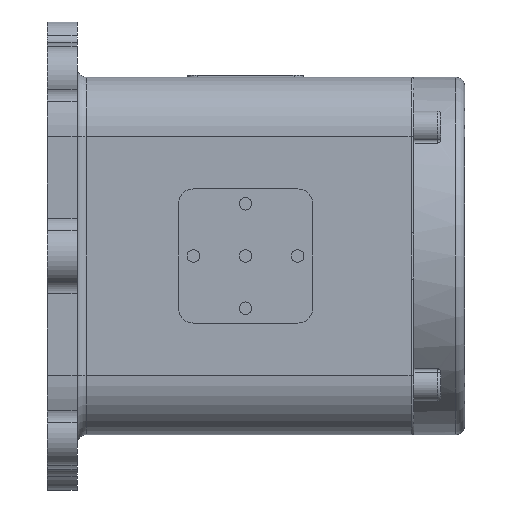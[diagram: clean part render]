
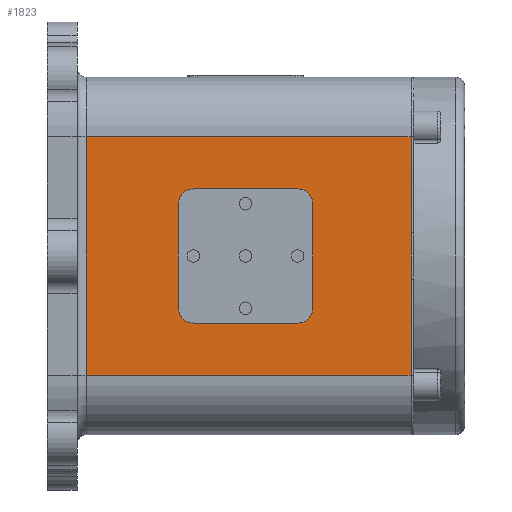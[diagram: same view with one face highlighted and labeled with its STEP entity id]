
A CAD part, left-side view. The second image highlights one B-rep face of the part: STEP entity #1823.
In plain terms, the highlighted planar face has unit normal (-1, 0, 0).
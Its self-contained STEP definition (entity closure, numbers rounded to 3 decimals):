
#52 = VERTEX_POINT ( 'NONE', #8034 ) ;
#121 = DIRECTION ( 'NONE',  ( 0., 0., -1. ) ) ;
#225 = VERTEX_POINT ( 'NONE', #2832 ) ;
#234 = CARTESIAN_POINT ( 'NONE',  ( -85., -27.5, 77.5 ) ) ;
#253 = EDGE_CURVE ( 'NONE', #11176, #9375, #7548, .T. ) ;
#337 = EDGE_CURVE ( 'NONE', #8012, #1720, #4086, .T. ) ;
#345 = ORIENTED_EDGE ( 'NONE', *, *, #337, .T. ) ;
#457 = CIRCLE ( 'NONE', #7240, 5. ) ;
#635 = CARTESIAN_POINT ( 'NONE',  ( -85., -60.5, 67.73 ) ) ;
#676 = CARTESIAN_POINT ( 'NONE',  ( -85., -60.634, 58.713 ) ) ;
#928 = EDGE_CURVE ( 'NONE', #9595, #3517, #974, .T. ) ;
#974 = CIRCLE ( 'NONE', #7477, 5. ) ;
#1048 = CARTESIAN_POINT ( 'NONE',  ( -85., 17.5, 37.5 ) ) ;
#1310 = EDGE_CURVE ( 'NONE', #52, #3517, #11005, .T. ) ;
#1338 = VERTEX_POINT ( 'NONE', #5458 ) ;
#1377 = VECTOR ( 'NONE', #10590, 1000. ) ;
#1484 = ORIENTED_EDGE ( 'NONE', *, *, #6611, .T. ) ;
#1534 = VERTEX_POINT ( 'NONE', #2017 ) ;
#1560 = ORIENTED_EDGE ( 'NONE', *, *, #7435, .F. ) ;
#1571 = ORIENTED_EDGE ( 'NONE', *, *, #1887, .T. ) ;
#1591 = CARTESIAN_POINT ( 'NONE',  ( -85., -60.607, 57.424 ) ) ;
#1720 = VERTEX_POINT ( 'NONE', #1765 ) ;
#1765 = CARTESIAN_POINT ( 'NONE',  ( -85., -60.5, 100. ) ) ;
#1823 = ADVANCED_FACE ( 'NONE', ( #6415, #7390 ), #8304, .F. ) ;
#1879 = CARTESIAN_POINT ( 'NONE',  ( -85., -27.5, 37.5 ) ) ;
#1881 = DIRECTION ( 'NONE',  ( 0., 1., 0. ) ) ;
#1887 = EDGE_CURVE ( 'NONE', #225, #2304, #3256, .T. ) ;
#1889 = EDGE_CURVE ( 'NONE', #9595, #2983, #5744, .T. ) ;
#2015 = VECTOR ( 'NONE', #10468, 1000. ) ;
#2017 = CARTESIAN_POINT ( 'NONE',  ( -85., -60.5, 52.27 ) ) ;
#2067 = DIRECTION ( 'NONE',  ( 1., 0., 0. ) ) ;
#2181 = CARTESIAN_POINT ( 'NONE',  ( -85., -22.5, 77.5 ) ) ;
#2269 = VECTOR ( 'NONE', #2756, 1000. ) ;
#2301 = DIRECTION ( 'NONE',  ( 1., 0., 0. ) ) ;
#2304 = VERTEX_POINT ( 'NONE', #11943 ) ;
#2306 = CARTESIAN_POINT ( 'NONE',  ( -85., -60.5, 66.441 ) ) ;
#2511 = CARTESIAN_POINT ( 'NONE',  ( -85., -60.5, 52.27 ) ) ;
#2567 = LINE ( 'NONE', #9697, #10652 ) ;
#2674 = LINE ( 'NONE', #2732, #3743 ) ;
#2706 = DIRECTION ( 'NONE',  ( 0., -1., 0. ) ) ;
#2732 = CARTESIAN_POINT ( 'NONE',  ( -85., -60.5, 120. ) ) ;
#2756 = DIRECTION ( 'NONE',  ( 0., -1., 0. ) ) ;
#2800 = DIRECTION ( 'NONE',  ( 1., 0., 0. ) ) ;
#2832 = CARTESIAN_POINT ( 'NONE',  ( -85., 17.5, 77.5 ) ) ;
#2983 = VERTEX_POINT ( 'NONE', #234 ) ;
#3018 = EDGE_CURVE ( 'NONE', #1338, #2304, #11290, .T. ) ;
#3037 = EDGE_CURVE ( 'NONE', #1338, #2983, #6479, .T. ) ;
#3211 = ORIENTED_EDGE ( 'NONE', *, *, #928, .T. ) ;
#3256 = CIRCLE ( 'NONE', #9994, 5. ) ;
#3314 = ORIENTED_EDGE ( 'NONE', *, *, #1310, .F. ) ;
#3392 = VECTOR ( 'NONE', #1881, 1000. ) ;
#3491 = CARTESIAN_POINT ( 'NONE',  ( -85., -60.607, 62.578 ) ) ;
#3517 = VERTEX_POINT ( 'NONE', #5828 ) ;
#3689 = EDGE_CURVE ( 'NONE', #1534, #8012, #6984, .T. ) ;
#3743 = VECTOR ( 'NONE', #7448, 1000. ) ;
#3917 = CARTESIAN_POINT ( 'NONE',  ( -85., -60.5, 120. ) ) ;
#3971 = DIRECTION ( 'NONE',  ( 0., 0., -1. ) ) ;
#3981 = EDGE_CURVE ( 'NONE', #9375, #1534, #2674, .T. ) ;
#4066 = DIRECTION ( 'NONE',  ( 0., 1., 0. ) ) ;
#4086 = LINE ( 'NONE', #3917, #1377 ) ;
#4378 = CARTESIAN_POINT ( 'NONE',  ( -85., -60.634, 61.29 ) ) ;
#4780 = EDGE_CURVE ( 'NONE', #52, #6807, #457, .T. ) ;
#4786 = VECTOR ( 'NONE', #6593, 1000. ) ;
#4853 = CARTESIAN_POINT ( 'NONE',  ( -85., -27.5, 42.5 ) ) ;
#5025 = ORIENTED_EDGE ( 'NONE', *, *, #4780, .T. ) ;
#5133 = LINE ( 'NONE', #9741, #5879 ) ;
#5200 = VERTEX_POINT ( 'NONE', #10223 ) ;
#5458 = CARTESIAN_POINT ( 'NONE',  ( -85., -22.5, 82.5 ) ) ;
#5646 = ORIENTED_EDGE ( 'NONE', *, *, #3037, .T. ) ;
#5742 = DIRECTION ( 'NONE',  ( 0., 0., -1. ) ) ;
#5744 = LINE ( 'NONE', #1879, #4786 ) ;
#5792 = ORIENTED_EDGE ( 'NONE', *, *, #253, .T. ) ;
#5828 = CARTESIAN_POINT ( 'NONE',  ( -85., -22.5, 37.5 ) ) ;
#5830 = EDGE_LOOP ( 'NONE', ( #7779, #1484, #5792, #8643, #9541, #345 ) ) ;
#5879 = VECTOR ( 'NONE', #4066, 1000. ) ;
#5900 = AXIS2_PLACEMENT_3D ( 'NONE', #2181, #2301, #9562 ) ;
#5987 = CARTESIAN_POINT ( 'NONE',  ( -85., -60.5, 67.73 ) ) ;
#6191 = CARTESIAN_POINT ( 'NONE',  ( -85., -60.5, 53.559 ) ) ;
#6195 = CARTESIAN_POINT ( 'NONE',  ( -85., -27.5, 37.5 ) ) ;
#6249 = DIRECTION ( 'NONE',  ( 0., 0., -1. ) ) ;
#6327 = CARTESIAN_POINT ( 'NONE',  ( -85., -60.5, 20. ) ) ;
#6406 = ORIENTED_EDGE ( 'NONE', *, *, #3018, .F. ) ;
#6415 = FACE_OUTER_BOUND ( 'NONE', #5830, .T. ) ;
#6479 = CIRCLE ( 'NONE', #5900, 5. ) ;
#6567 = DIRECTION ( 'NONE',  ( 1., 0., 0. ) ) ;
#6593 = DIRECTION ( 'NONE',  ( 0., 0., 1. ) ) ;
#6611 = EDGE_CURVE ( 'NONE', #5200, #11176, #2567, .T. ) ;
#6718 = CARTESIAN_POINT ( 'NONE',  ( -85., -27.5, 82.5 ) ) ;
#6790 = LINE ( 'NONE', #1048, #2015 ) ;
#6807 = VERTEX_POINT ( 'NONE', #10164 ) ;
#6955 = VECTOR ( 'NONE', #2706, 1000. ) ;
#6984 = B_SPLINE_CURVE_WITH_KNOTS ( 'NONE', 3,
 ( #2511, #6191, #9877, #1591, #676, #4378, #3491, #7168, #2306, #5987 ),
 .UNSPECIFIED., .F., .F.,
 ( 4, 2, 2, 2, 4 ),
 ( 0., 0.004, 0.008, 0.012, 0.015 ),
 .UNSPECIFIED. ) ;
#7055 = EDGE_LOOP ( 'NONE', ( #3314, #5025, #1560, #1571, #6406, #5646, #10787, #3211 ) ) ;
#7168 = CARTESIAN_POINT ( 'NONE',  ( -85., -60.539, 65.154 ) ) ;
#7240 = AXIS2_PLACEMENT_3D ( 'NONE', #10359, #6567, #3971 ) ;
#7390 = FACE_BOUND ( 'NONE', #7055, .T. ) ;
#7435 = EDGE_CURVE ( 'NONE', #225, #6807, #6790, .T. ) ;
#7448 = DIRECTION ( 'NONE',  ( 0., 0., 1. ) ) ;
#7455 = DIRECTION ( 'NONE',  ( 0., 0., -1. ) ) ;
#7477 = AXIS2_PLACEMENT_3D ( 'NONE', #10335, #2067, #5742 ) ;
#7548 = LINE ( 'NONE', #10182, #6955 ) ;
#7779 = ORIENTED_EDGE ( 'NONE', *, *, #8847, .T. ) ;
#7868 = CARTESIAN_POINT ( 'NONE',  ( -85., 48.5, 20. ) ) ;
#8012 = VERTEX_POINT ( 'NONE', #635 ) ;
#8034 = CARTESIAN_POINT ( 'NONE',  ( -85., 12.5, 37.5 ) ) ;
#8304 = PLANE ( 'NONE',  #11905 ) ;
#8527 = CARTESIAN_POINT ( 'NONE',  ( -85., -61.5, 120. ) ) ;
#8643 = ORIENTED_EDGE ( 'NONE', *, *, #3981, .T. ) ;
#8847 = EDGE_CURVE ( 'NONE', #1720, #5200, #5133, .T. ) ;
#9375 = VERTEX_POINT ( 'NONE', #6327 ) ;
#9541 = ORIENTED_EDGE ( 'NONE', *, *, #3689, .T. ) ;
#9562 = DIRECTION ( 'NONE',  ( 0., 0., -1. ) ) ;
#9595 = VERTEX_POINT ( 'NONE', #4853 ) ;
#9697 = CARTESIAN_POINT ( 'NONE',  ( -85., 48.5, 20. ) ) ;
#9741 = CARTESIAN_POINT ( 'NONE',  ( -85., -61.5, 100. ) ) ;
#9877 = CARTESIAN_POINT ( 'NONE',  ( -85., -60.539, 54.848 ) ) ;
#9994 = AXIS2_PLACEMENT_3D ( 'NONE', #11046, #2800, #121 ) ;
#10164 = CARTESIAN_POINT ( 'NONE',  ( -85., 17.5, 42.5 ) ) ;
#10182 = CARTESIAN_POINT ( 'NONE',  ( -85., -61.5, 20. ) ) ;
#10223 = CARTESIAN_POINT ( 'NONE',  ( -85., 48.5, 100. ) ) ;
#10335 = CARTESIAN_POINT ( 'NONE',  ( -85., -22.5, 42.5 ) ) ;
#10359 = CARTESIAN_POINT ( 'NONE',  ( -85., 12.5, 42.5 ) ) ;
#10468 = DIRECTION ( 'NONE',  ( 0., 0., -1. ) ) ;
#10590 = DIRECTION ( 'NONE',  ( 0., 0., 1. ) ) ;
#10652 = VECTOR ( 'NONE', #6249, 1000. ) ;
#10787 = ORIENTED_EDGE ( 'NONE', *, *, #1889, .F. ) ;
#11005 = LINE ( 'NONE', #6195, #2269 ) ;
#11046 = CARTESIAN_POINT ( 'NONE',  ( -85., 12.5, 77.5 ) ) ;
#11105 = DIRECTION ( 'NONE',  ( 1., 0., 0. ) ) ;
#11176 = VERTEX_POINT ( 'NONE', #7868 ) ;
#11290 = LINE ( 'NONE', #6718, #3392 ) ;
#11905 = AXIS2_PLACEMENT_3D ( 'NONE', #8527, #11105, #7455 ) ;
#11943 = CARTESIAN_POINT ( 'NONE',  ( -85., 12.5, 82.5 ) ) ;
